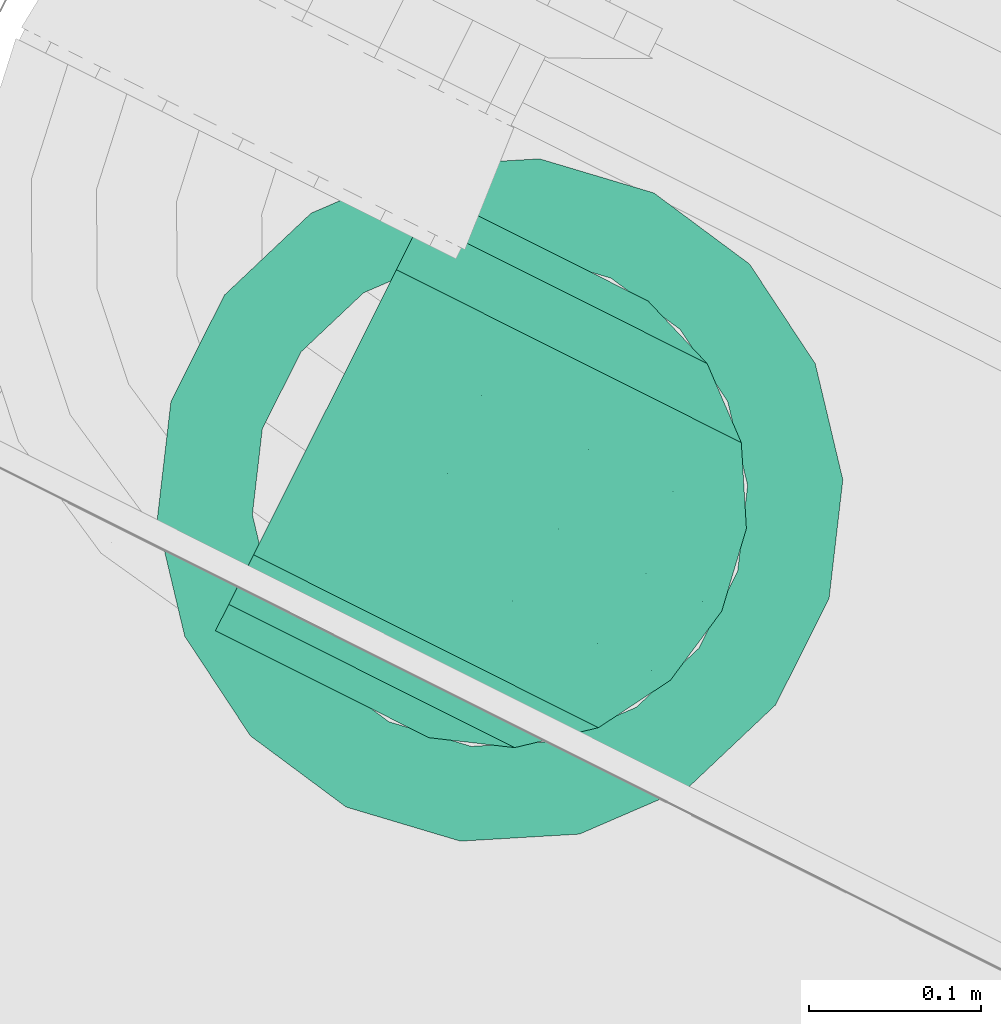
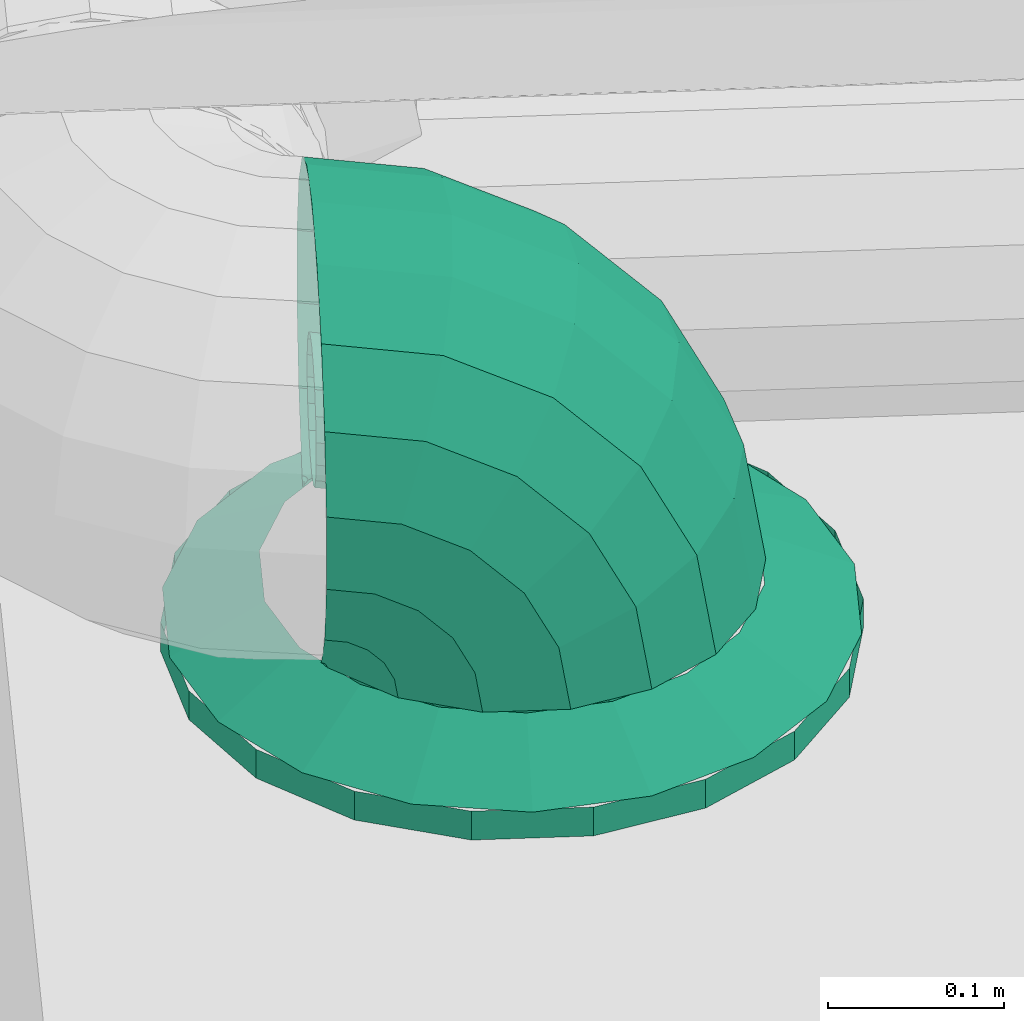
# One storey, part 88 of 206: 1 flow fitting, 1 flow segment.
"""IFC2X3 building model written with IfcOpenShell, lengths in metres."""

from ifc_helpers import new_model, si_unit, derived_unit, direction, frame, origin, place, context, subcontext, project, spatial, face_set, surface_model, source, transform, mapped, material, type_object, type_shapes, element, save


model = new_model("IFC2X3")

# Units and contexts
model_context = context("Model", 3, precision=5.2338327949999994e-05, world=origin(), true_north=direction((0.0, 1.0)))
body_context = subcontext(model_context, "Body", "Model", "MODEL_VIEW")
ifc_project = project(units=[si_unit("LENGTHUNIT", "METRE"), si_unit("AREAUNIT", "SQUARE_METRE"), si_unit("VOLUMEUNIT", "CUBIC_METRE"), si_unit("MASSUNIT", "GRAM", prefix="KILO"), si_unit("PLANEANGLEUNIT", "RADIAN"), derived_unit("THERMALTRANSMITTANCEUNIT", [(si_unit("MASSUNIT", "GRAM", prefix="KILO"), 1), (si_unit("THERMODYNAMICTEMPERATUREUNIT", "KELVIN"), -1), (si_unit("TIMEUNIT", "SECOND"), -3)])], contexts=[model_context])

# Site, building, storey
site_placement = place(None, frame((0.0, 0.0, 0.0), z_axis=(0.0, 0.0, 1.0), x_axis=(0.8939966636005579, -0.4480736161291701, 0.0)))
site = spatial("IfcSite", under=ifc_project, at=site_placement, Name="Default", CompositionType="ELEMENT")
building_placement = place(site_placement, origin())
building = spatial("IfcBuilding", under=site, at=building_placement, CompositionType="ELEMENT")
storey_placement = place(building_placement, origin())
storey = spatial("IfcBuildingStorey", under=building, at=storey_placement, Name="Erdgeschoss", CompositionType="ELEMENT", Elevation=0.0)

# Flow fitting
ifc_material = material(Name="IfcSurfaceStyle #1741")
distribution_element_type_1 = type_object("IfcDistributionElementType", Name="Flansch 329199:Flansch 329199", material=ifc_material)
shared_shape_1 = source(origin(), body_context, "Body", "SurfaceModel", [
    surface_model("IfcFaceBasedSurfaceModel", [(30.08812798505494, 8.473570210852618, 2.15), (30.09415872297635, 8.439368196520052, 2.15), (30.09415872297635, 8.439368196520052, 2.170000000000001), (30.08812798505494, 8.473570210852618, 2.1699999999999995), (30.11152354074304, 8.409291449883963, 2.15), (30.11152354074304, 8.409291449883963, 2.170000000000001), (30.13812798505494, 8.386967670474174, 2.15), (30.13812798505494, 8.386967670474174, 2.170000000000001), (30.170763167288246, 8.375089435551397, 2.15), (30.170763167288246, 8.375089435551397, 2.170000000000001), (30.205492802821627, 8.375089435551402, 2.15), (30.205492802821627, 8.375089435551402, 2.170000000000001), (30.238127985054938, 8.386967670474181, 2.15), (30.238127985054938, 8.386967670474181, 2.170000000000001), (30.264732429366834, 8.409291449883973, 2.15), (30.264732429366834, 8.409291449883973, 2.170000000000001), (30.282097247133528, 8.43936819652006, 2.15), (30.282097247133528, 8.43936819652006, 2.170000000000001), (30.288127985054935, 8.473570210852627, 2.15), (30.288127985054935, 8.473570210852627, 2.170000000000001), (30.282097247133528, 8.507772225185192, 2.15), (30.282097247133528, 8.507772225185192, 2.170000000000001), (30.264732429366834, 8.537848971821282, 2.15), (30.264732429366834, 8.537848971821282, 2.170000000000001), (30.238127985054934, 8.56017275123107, 2.15), (30.238127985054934, 8.56017275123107, 2.170000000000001), (30.205492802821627, 8.572050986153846, 2.15), (30.205492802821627, 8.572050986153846, 2.170000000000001), (30.170763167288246, 8.572050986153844, 2.15), (30.170763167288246, 8.572050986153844, 2.170000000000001), (30.138127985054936, 8.560172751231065, 2.15), (30.138127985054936, 8.560172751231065, 2.170000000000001), (30.11152354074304, 8.537848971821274, 2.15), (30.11152354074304, 8.537848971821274, 2.170000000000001), (30.09415872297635, 8.507772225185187, 2.15), (30.09415872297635, 8.507772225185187, 2.170000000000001), (30.188127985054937, 8.473570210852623, 2.170000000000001), (30.188127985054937, 8.526070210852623, 2.170000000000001), (30.170171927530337, 8.522904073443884, 2.170000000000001), (30.17292518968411, 8.515339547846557, 2.2000000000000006), (30.188127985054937, 8.518020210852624, 2.2), (30.154381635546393, 8.513787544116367, 2.170000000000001), (30.15955607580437, 8.50762088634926, 2.2), (30.142661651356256, 8.49982021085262, 2.170000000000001), (30.149633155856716, 8.495795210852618, 2.2000000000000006), (30.136425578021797, 8.482686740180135, 2.1700000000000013), (30.144353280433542, 8.481288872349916, 2.2000000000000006), (30.136425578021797, 8.464453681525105, 2.170000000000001), (30.144353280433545, 8.465851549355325, 2.2000000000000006), (30.142661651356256, 8.447320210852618, 2.170000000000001), (30.149633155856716, 8.45134521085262, 2.2000000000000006), (30.154381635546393, 8.433352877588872, 2.1700000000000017), (30.15955607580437, 8.43951953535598, 2.200000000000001), (30.170171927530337, 8.424236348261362, 2.170000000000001), (30.17292518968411, 8.431800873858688, 2.2000000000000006), (30.188127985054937, 8.42107021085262, 2.1700000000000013), (30.188127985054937, 8.429120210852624, 2.2000000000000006), (30.206084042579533, 8.424236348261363, 2.170000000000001), (30.203330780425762, 8.43180087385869, 2.2000000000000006), (30.22187433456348, 8.433352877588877, 2.170000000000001), (30.216699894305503, 8.439519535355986, 2.2000000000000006), (30.23359431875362, 8.447320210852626, 2.170000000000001), (30.226622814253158, 8.451345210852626, 2.2000000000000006), (30.239830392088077, 8.46445368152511, 2.170000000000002), (30.23190268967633, 8.465851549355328, 2.2000000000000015), (30.239830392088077, 8.482686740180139, 2.170000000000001), (30.23190268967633, 8.481288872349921, 2.2000000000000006), (30.23359431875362, 8.499820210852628, 2.170000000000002), (30.226622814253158, 8.495795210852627, 2.200000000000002), (30.22187433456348, 8.513787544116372, 2.170000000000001), (30.216699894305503, 8.507620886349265, 2.2000000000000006), (30.20608404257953, 8.522904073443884, 2.1700000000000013), (30.203330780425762, 8.515339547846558, 2.2000000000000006), (29.988127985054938, 8.473570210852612, 2.15), (30.000189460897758, 8.405166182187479, 2.15), (30.000189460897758, 8.405166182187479, 2.170000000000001), (29.988127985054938, 8.473570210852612, 2.170000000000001), (30.03491909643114, 8.345012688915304, 2.15), (30.03491909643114, 8.345012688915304, 2.170000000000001), (30.08812798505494, 8.300365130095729, 2.15), (30.08812798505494, 8.300365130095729, 2.170000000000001), (30.153398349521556, 8.276608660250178, 2.15), (30.153398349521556, 8.276608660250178, 2.170000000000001), (30.222857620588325, 8.276608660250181, 2.15), (30.222857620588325, 8.276608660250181, 2.170000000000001), (30.288127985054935, 8.300365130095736, 2.15), (30.288127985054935, 8.300365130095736, 2.170000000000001), (30.34133687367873, 8.345012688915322, 2.15), (30.34133687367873, 8.345012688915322, 2.170000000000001), (30.37606650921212, 8.4051661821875, 2.15), (30.37606650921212, 8.4051661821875, 2.170000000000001), (30.388127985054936, 8.473570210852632, 2.15), (30.388127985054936, 8.473570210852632, 2.170000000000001), (30.37606650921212, 8.541974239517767, 2.15), (30.37606650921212, 8.541974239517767, 2.170000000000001), (30.341336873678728, 8.60212773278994, 2.15), (30.341336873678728, 8.60212773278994, 2.170000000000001), (30.288127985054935, 8.646775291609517, 2.15), (30.288127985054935, 8.646775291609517, 2.170000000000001), (30.222857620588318, 8.670531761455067, 2.15), (30.222857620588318, 8.670531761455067, 2.170000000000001), (30.15339834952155, 8.670531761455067, 2.15), (30.15339834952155, 8.670531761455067, 2.170000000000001), (30.08812798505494, 8.646775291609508, 2.15), (30.08812798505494, 8.646775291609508, 2.170000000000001), (30.03491909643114, 8.602127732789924, 2.15), (30.03491909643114, 8.602127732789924, 2.170000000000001), (30.000189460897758, 8.541974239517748, 2.15), (30.000189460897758, 8.541974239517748, 2.170000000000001), (30.188127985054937, 8.673570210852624, 2.1700000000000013), (30.1197239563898, 8.661508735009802, 2.1700000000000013), (30.138723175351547, 8.609308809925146, 2.2000000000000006), (30.188127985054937, 8.618020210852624, 2.1999999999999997), (30.05957046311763, 8.626779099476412, 2.170000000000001), (30.09527731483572, 8.584225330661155, 2.2000000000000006), (30.01492290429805, 8.573570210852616, 2.1700000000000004), (30.06303061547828, 8.545795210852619, 2.1999999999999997), (29.9911664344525, 8.508299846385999, 2.169999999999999), (30.045872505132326, 8.498653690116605, 2.1999999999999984), (29.9911664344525, 8.438840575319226, 2.170000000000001), (30.045872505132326, 8.448486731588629, 2.2000000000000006), (30.01492290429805, 8.373570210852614, 2.1700000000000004), (30.063030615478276, 8.401345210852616, 2.1999999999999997), (30.05957046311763, 8.32036132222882, 2.1700000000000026), (30.09527731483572, 8.36291509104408, 2.200000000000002), (30.11972395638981, 8.285631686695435, 2.170000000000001), (30.138723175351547, 8.337831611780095, 2.2000000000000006), (30.188127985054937, 8.27357021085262, 2.1700000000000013), (30.188127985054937, 8.32912021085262, 2.2000000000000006), (30.25653201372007, 8.285631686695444, 2.1700000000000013), (30.23753279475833, 8.337831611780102, 2.2000000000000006), (30.316685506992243, 8.320361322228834, 2.1700000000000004), (30.280978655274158, 8.36291509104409, 2.1999999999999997), (30.36133306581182, 8.373570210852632, 2.1700000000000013), (30.313225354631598, 8.401345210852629, 2.2000000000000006), (30.38508953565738, 8.438840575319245, 2.170000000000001), (30.330383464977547, 8.448486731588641, 2.2000000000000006), (30.38508953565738, 8.50829984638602, 2.1699999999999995), (30.330383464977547, 8.498653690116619, 2.1999999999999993), (30.36133306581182, 8.573570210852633, 2.17), (30.313225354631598, 8.54579521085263, 2.1999999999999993), (30.316685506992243, 8.626779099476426, 2.1700000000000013), (30.280978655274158, 8.584225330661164, 2.2000000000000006), (30.25653201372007, 8.66150873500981, 2.1700000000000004), (30.23753279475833, 8.609308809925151, 2.1999999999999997)], [face_set([[[0, 1, 2, 3]], [[1, 4, 5, 2]], [[4, 6, 7, 5]], [[6, 8, 9, 7]], [[8, 10, 11, 9]], [[10, 12, 13, 11]], [[12, 14, 15, 13]], [[14, 16, 17, 15]], [[16, 18, 19, 17]], [[18, 20, 21, 19]], [[20, 22, 23, 21]], [[22, 24, 25, 23]], [[24, 26, 27, 25]], [[26, 28, 29, 27]], [[28, 30, 31, 29]], [[30, 32, 33, 31]], [[32, 34, 35, 33]], [[34, 0, 3, 35]], [[36, 35, 3]], [[36, 33, 35]], [[36, 31, 33]], [[36, 29, 31]], [[36, 27, 29]], [[36, 25, 27]], [[36, 23, 25]], [[36, 21, 23]], [[36, 19, 21]], [[36, 17, 19]], [[36, 15, 17]], [[36, 13, 15]], [[36, 11, 13]], [[36, 9, 11]], [[36, 7, 9]], [[36, 5, 7]], [[36, 2, 5]], [[36, 3, 2]], [[37, 38, 39, 40]], [[38, 41, 42, 39]], [[41, 43, 44, 42]], [[43, 45, 46, 44]], [[45, 47, 48, 46]], [[47, 49, 50, 48]], [[49, 51, 52, 50]], [[51, 53, 54, 52]], [[53, 55, 56, 54]], [[55, 57, 58, 56]], [[57, 59, 60, 58]], [[59, 61, 62, 60]], [[61, 63, 64, 62]], [[63, 65, 66, 64]], [[65, 67, 68, 66]], [[67, 69, 70, 68]], [[69, 71, 72, 70]], [[71, 37, 40, 72]], [[73, 74, 75, 76]], [[74, 77, 78, 75]], [[77, 79, 80, 78]], [[79, 81, 82, 80]], [[81, 83, 84, 82]], [[83, 85, 86, 84]], [[85, 87, 88, 86]], [[87, 89, 90, 88]], [[89, 91, 92, 90]], [[91, 93, 94, 92]], [[93, 95, 96, 94]], [[95, 97, 98, 96]], [[97, 99, 100, 98]], [[99, 101, 102, 100]], [[101, 103, 104, 102]], [[103, 105, 106, 104]], [[105, 107, 108, 106]], [[107, 73, 76, 108]], [[109, 110, 111, 112]], [[110, 113, 114, 111]], [[113, 115, 116, 114]], [[115, 117, 118, 116]], [[117, 119, 120, 118]], [[119, 121, 122, 120]], [[121, 123, 124, 122]], [[123, 125, 126, 124]], [[125, 127, 128, 126]], [[127, 129, 130, 128]], [[129, 131, 132, 130]], [[131, 133, 134, 132]], [[133, 135, 136, 134]], [[135, 137, 138, 136]], [[137, 139, 140, 138]], [[139, 141, 142, 140]], [[141, 143, 144, 142]], [[143, 109, 112, 144]]])]),
])
type_shapes(distribution_element_type_1, [shared_shape_1])
flow_fitting_placement = place(storey_placement, origin())
element("IfcFlowFitting", 1, at=flow_fitting_placement, inside=storey, type_object=distribution_element_type_1, material=ifc_material, Name="Flansch", ObjectType="Flansch", context=body_context, shape_type="MappedRepresentation", body=[
    mapped(shared_shape_1, transform((0.0, 0.0, 0.0), scale=1.0)),
])

# Flow segment
distribution_element_type_2 = type_object("IfcDistributionElementType", Name="Rohrbogen 329222:Rohrbogen 329222", material=ifc_material)
shared_shape_2 = source(origin(), body_context, "Body", "SurfaceModel", [
    surface_model("IfcFaceBasedSurfaceModel", [(30.123091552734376, 8.47356999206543, 2.350694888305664), (30.074127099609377, 8.47356999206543, 2.3584499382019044), (30.122263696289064, 8.458367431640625, 2.34814547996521), (30.074127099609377, 8.458367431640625, 2.3557692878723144), (30.167263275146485, 8.47356999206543, 2.3281887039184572), (30.165686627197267, 8.458367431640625, 2.326020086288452), (30.202316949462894, 8.47356999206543, 2.2931345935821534), (30.200147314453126, 8.458367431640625, 2.2915589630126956), (30.224822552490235, 8.47356999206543, 2.248963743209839), (30.222273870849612, 8.458367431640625, 2.2481353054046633), (30.23257789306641, 8.47356999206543, 2.200000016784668), (30.229896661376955, 8.458367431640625, 2.200000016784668), (30.074127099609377, 8.44499848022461, 2.3480507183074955), (30.119877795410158, 8.44499848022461, 2.340804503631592), (30.16114969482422, 8.44499848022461, 2.3197755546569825), (30.193903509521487, 8.44499848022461, 2.2870220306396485), (30.214932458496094, 8.44499848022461, 2.245750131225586), (30.222178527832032, 8.44499848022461, 2.200000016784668), (30.074127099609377, 8.435075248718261, 2.33622498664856), (30.1162245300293, 8.435075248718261, 2.3295576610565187), (30.15419895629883, 8.435075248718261, 2.3102084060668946), (30.18433665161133, 8.435075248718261, 2.2800710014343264), (30.203686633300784, 8.435075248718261, 2.242095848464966), (30.210353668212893, 8.435075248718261, 2.200000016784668), (30.111741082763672, 8.429795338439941, 2.3157612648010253), (30.074127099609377, 8.429795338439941, 2.321718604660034), (30.14567156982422, 8.429795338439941, 2.298472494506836), (30.17260015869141, 8.429795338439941, 2.271544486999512), (30.18988980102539, 8.429795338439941, 2.23761312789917), (30.1958475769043, 8.429795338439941, 2.200000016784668), (30.074127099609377, 8.429795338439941, 2.30628132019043), (30.106971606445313, 8.429795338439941, 2.301079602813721), (30.136597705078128, 8.429795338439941, 2.2859834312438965), (30.160112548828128, 8.429795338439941, 2.262470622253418), (30.17520697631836, 8.429795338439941, 2.232842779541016), (30.180408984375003, 8.429795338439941, 2.200000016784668), (30.074127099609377, 8.435075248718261, 2.2917749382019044), (30.10248815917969, 8.435075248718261, 2.287283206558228), (30.12807264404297, 8.435075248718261, 2.274247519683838), (30.148376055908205, 8.435075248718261, 2.2539439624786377), (30.16141014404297, 8.435075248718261, 2.2283600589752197), (30.16590289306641, 8.435075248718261, 2.200000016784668), (30.074127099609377, 8.44499848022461, 2.2799493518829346), (30.098832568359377, 8.44499848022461, 2.2760363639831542), (30.12112190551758, 8.44499848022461, 2.26468037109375), (30.13880919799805, 8.44499848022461, 2.2469930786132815), (30.150164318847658, 8.44499848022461, 2.224705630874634), (30.154078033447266, 8.44499848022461, 2.200000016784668), (30.096448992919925, 8.458367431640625, 2.268695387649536), (30.074127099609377, 8.458367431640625, 2.2722306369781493), (30.116584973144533, 8.458367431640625, 2.2584358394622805), (30.132563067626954, 8.458367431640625, 2.2424561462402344), (30.142822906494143, 8.458367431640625, 2.222320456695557), (30.146357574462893, 8.458367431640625, 2.200000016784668), (30.074127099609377, 8.47356999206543, 2.26954998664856), (30.095621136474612, 8.47356999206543, 2.266145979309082), (30.115008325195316, 8.47356999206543, 2.2562670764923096), (30.130395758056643, 8.47356999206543, 2.2408805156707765), (30.140274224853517, 8.47356999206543, 2.2214921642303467), (30.143678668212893, 8.47356999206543, 2.200000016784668), (30.074127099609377, 8.488773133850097, 2.2722306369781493), (30.096448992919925, 8.488773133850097, 2.268695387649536), (30.116584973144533, 8.488773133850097, 2.2584358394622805), (30.132563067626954, 8.488773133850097, 2.2424561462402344), (30.142822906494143, 8.488773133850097, 2.222320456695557), (30.146357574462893, 8.488773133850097, 2.200000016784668), (30.074127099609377, 8.502142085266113, 2.2799493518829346), (30.098832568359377, 8.502142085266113, 2.2760363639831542), (30.12112190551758, 8.502142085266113, 2.26468037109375), (30.13880919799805, 8.502142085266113, 2.2469930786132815), (30.150164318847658, 8.502142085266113, 2.224705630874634), (30.154078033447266, 8.502142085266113, 2.200000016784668), (30.10248815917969, 8.512065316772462, 2.287283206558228), (30.074127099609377, 8.512065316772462, 2.2917749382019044), (30.12807264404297, 8.512065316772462, 2.274247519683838), (30.148376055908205, 8.512065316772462, 2.2539439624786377), (30.16141014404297, 8.512065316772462, 2.2283600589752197), (30.16590289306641, 8.512065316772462, 2.200000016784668), (30.074127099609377, 8.517344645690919, 2.30628132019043), (30.106971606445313, 8.517344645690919, 2.301079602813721), (30.136597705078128, 8.517344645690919, 2.2859834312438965), (30.160112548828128, 8.517344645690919, 2.262470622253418), (30.17520697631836, 8.517344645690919, 2.232842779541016), (30.180408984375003, 8.517344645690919, 2.200000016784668), (30.111741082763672, 8.517344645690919, 2.3157612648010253), (30.074127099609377, 8.517344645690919, 2.321718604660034), (30.14567156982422, 8.517344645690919, 2.298472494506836), (30.17260015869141, 8.517344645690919, 2.271544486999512), (30.18988980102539, 8.517344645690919, 2.23761312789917), (30.1958475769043, 8.517344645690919, 2.200000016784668), (30.074127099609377, 8.512065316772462, 2.33622498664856), (30.1162245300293, 8.512065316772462, 2.3295576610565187), (30.15419895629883, 8.512065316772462, 2.3102084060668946), (30.18433665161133, 8.512065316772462, 2.2800710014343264), (30.203686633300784, 8.512065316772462, 2.242095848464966), (30.210353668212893, 8.512065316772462, 2.200000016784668), (30.074127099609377, 8.502142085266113, 2.3480507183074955), (30.119877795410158, 8.502142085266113, 2.340804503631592), (30.16114969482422, 8.502142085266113, 2.3197755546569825), (30.193903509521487, 8.502142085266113, 2.2870220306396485), (30.214932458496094, 8.502142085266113, 2.245750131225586), (30.222178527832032, 8.502142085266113, 2.200000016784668), (30.122263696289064, 8.488773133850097, 2.34814547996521), (30.074127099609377, 8.488773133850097, 2.3557692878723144), (30.165686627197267, 8.488773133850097, 2.326020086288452), (30.200147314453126, 8.488773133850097, 2.2915589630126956), (30.222273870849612, 8.488773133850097, 2.2481353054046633), (30.229896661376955, 8.488773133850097, 2.200000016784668), (30.153994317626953, 8.47356999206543, 2.445800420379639), (30.074127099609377, 8.47356999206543, 2.458449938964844), (30.151301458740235, 8.424165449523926, 2.437515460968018), (30.074127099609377, 8.424165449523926, 2.449738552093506), (30.226041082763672, 8.47356999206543, 2.409090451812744), (30.220920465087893, 8.424165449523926, 2.4020427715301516), (30.28321898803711, 8.47356999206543, 2.35191312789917), (30.27617058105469, 8.424165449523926, 2.3467926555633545), (30.319928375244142, 8.47356999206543, 2.2798654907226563), (30.311642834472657, 8.424165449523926, 2.2771735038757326), (30.332578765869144, 8.47356999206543, 2.200000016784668), (30.323867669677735, 8.424165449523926, 2.200000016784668), (30.074127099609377, 8.380719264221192, 2.4246550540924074), (30.14355076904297, 8.380719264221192, 2.4136596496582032), (30.20617717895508, 8.380719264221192, 2.381749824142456), (30.25587879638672, 8.380719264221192, 2.3320489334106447), (30.2877884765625, 8.380719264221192, 2.2694222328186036), (30.298783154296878, 8.380719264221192, 2.200000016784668), (30.13167474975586, 8.34847297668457, 2.377110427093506), (30.074127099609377, 8.34847297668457, 2.3862249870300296), (30.183587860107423, 8.34847297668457, 2.350659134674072), (30.22478767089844, 8.34847297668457, 2.3094603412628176), (30.251239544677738, 8.34847297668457, 2.257546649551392), (30.26035294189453, 8.34847297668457, 2.200000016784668), (30.074127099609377, 8.331314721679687, 2.339083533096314), (30.117108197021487, 8.331314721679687, 2.3322762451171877), (30.15588024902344, 8.331314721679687, 2.3125209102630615), (30.186648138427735, 8.331314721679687, 2.281751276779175), (30.206405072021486, 8.331314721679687, 2.242979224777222), (30.213211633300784, 8.331314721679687, 2.200000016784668), (30.074127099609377, 8.331314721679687, 2.2889165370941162), (30.1016044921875, 8.331314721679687, 2.284564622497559), (30.12639135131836, 8.331314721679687, 2.271935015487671), (30.146062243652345, 8.331314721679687, 2.252263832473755), (30.158691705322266, 8.331314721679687, 2.227476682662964), (30.163044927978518, 8.331314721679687, 2.200000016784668), (30.074127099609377, 8.34847297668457, 2.2417749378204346), (30.087037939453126, 8.34847297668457, 2.23973044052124), (30.098683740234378, 8.34847297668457, 2.2337966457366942), (30.107925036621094, 8.34847297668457, 2.2245547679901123), (30.113857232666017, 8.34847297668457, 2.2129091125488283), (30.115903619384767, 8.34847297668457, 2.200000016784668), (30.074127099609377, 8.380719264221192, 2.2033448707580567), (30.075161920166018, 8.380719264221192, 2.203181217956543), (30.07609442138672, 8.380719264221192, 2.2027061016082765), (30.076833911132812, 8.380719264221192, 2.2019660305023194), (30.07730830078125, 8.380719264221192, 2.201033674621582), (30.077473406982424, 8.380719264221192, 2.200000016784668), (30.074127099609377, 8.386513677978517, 2.199999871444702), (30.07502937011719, 8.386266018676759, 2.199999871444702), (30.074127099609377, 8.560626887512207, 2.199999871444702), (30.07502937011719, 8.560874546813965, 2.199999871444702), (30.075161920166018, 8.566420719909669, 2.203181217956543), (30.074127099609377, 8.566420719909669, 2.2033448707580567), (30.07609442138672, 8.566420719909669, 2.2027061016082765), (30.076833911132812, 8.566420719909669, 2.2019660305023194), (30.07730830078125, 8.566420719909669, 2.201033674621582), (30.077473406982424, 8.566420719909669, 2.200000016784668), (30.087037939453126, 8.598667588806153, 2.23973044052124), (30.074127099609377, 8.598667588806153, 2.2417749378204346), (30.098683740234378, 8.598667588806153, 2.2337966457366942), (30.107925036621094, 8.598667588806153, 2.2245547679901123), (30.113857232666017, 8.598667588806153, 2.2129091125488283), (30.115903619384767, 8.598667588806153, 2.200000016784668), (30.1016044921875, 8.615825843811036, 2.284564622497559), (30.074127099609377, 8.615825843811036, 2.2889165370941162), (30.12639135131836, 8.615825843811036, 2.271935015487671), (30.146062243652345, 8.615825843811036, 2.252263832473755), (30.158691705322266, 8.615825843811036, 2.227476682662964), (30.163044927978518, 8.615825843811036, 2.200000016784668), (30.117108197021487, 8.615825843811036, 2.3322762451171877), (30.074127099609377, 8.615825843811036, 2.339083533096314), (30.15588024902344, 8.615825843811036, 2.3125209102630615), (30.186648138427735, 8.615825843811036, 2.281751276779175), (30.206405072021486, 8.615825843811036, 2.242979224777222), (30.213211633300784, 8.615825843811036, 2.200000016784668), (30.13167474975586, 8.598667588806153, 2.377110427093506), (30.074127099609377, 8.598667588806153, 2.3862249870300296), (30.183587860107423, 8.598667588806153, 2.350659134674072), (30.22478767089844, 8.598667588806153, 2.3094603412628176), (30.251239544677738, 8.598667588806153, 2.257546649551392), (30.26035294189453, 8.598667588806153, 2.200000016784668), (30.14355076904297, 8.566420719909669, 2.4136596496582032), (30.074127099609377, 8.566420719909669, 2.4246550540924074), (30.20617717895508, 8.566420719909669, 2.381749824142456), (30.25587879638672, 8.566420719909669, 2.3320489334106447), (30.2877884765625, 8.566420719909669, 2.2694222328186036), (30.298783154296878, 8.566420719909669, 2.200000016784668), (30.151301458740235, 8.522975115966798, 2.437515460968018), (30.074127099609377, 8.522975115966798, 2.449738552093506), (30.220920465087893, 8.522975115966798, 2.4020427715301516), (30.27617058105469, 8.522975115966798, 2.3467926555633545), (30.311642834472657, 8.522975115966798, 2.2771735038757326), (30.323867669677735, 8.522975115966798, 2.200000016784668)], [face_set([[[0, 1, 2]], [[3, 2, 1]], [[4, 0, 5]], [[2, 5, 0]], [[6, 4, 5]], [[5, 7, 6]], [[8, 6, 7]], [[7, 9, 8]], [[10, 8, 9]], [[9, 11, 10]], [[2, 3, 12]], [[12, 13, 2]], [[5, 2, 14]], [[13, 14, 2]], [[7, 5, 15]], [[14, 15, 5]], [[9, 7, 16]], [[15, 16, 7]], [[11, 9, 17]], [[16, 17, 9]], [[13, 12, 18]], [[18, 19, 13]], [[14, 13, 19]], [[19, 20, 14]], [[15, 14, 21]], [[20, 21, 14]], [[16, 15, 21]], [[21, 22, 16]], [[17, 16, 22]], [[22, 23, 17]], [[19, 18, 24]], [[25, 24, 18]], [[20, 19, 26]], [[24, 26, 19]], [[21, 20, 27]], [[26, 27, 20]], [[22, 21, 28]], [[27, 28, 21]], [[23, 22, 29]], [[28, 29, 22]], [[24, 25, 30]], [[30, 31, 24]], [[26, 24, 31]], [[31, 32, 26]], [[27, 26, 33]], [[32, 33, 26]], [[28, 27, 34]], [[33, 34, 27]], [[29, 28, 34]], [[34, 35, 29]], [[31, 30, 36]], [[36, 37, 31]], [[32, 31, 38]], [[37, 38, 31]], [[33, 32, 39]], [[38, 39, 32]], [[34, 33, 40]], [[39, 40, 33]], [[35, 34, 40]], [[40, 41, 35]], [[37, 36, 42]], [[42, 43, 37]], [[38, 37, 43]], [[43, 44, 38]], [[39, 38, 44]], [[44, 45, 39]], [[40, 39, 46]], [[45, 46, 39]], [[41, 40, 46]], [[46, 47, 41]], [[43, 42, 48]], [[49, 48, 42]], [[44, 43, 50]], [[48, 50, 43]], [[45, 44, 51]], [[50, 51, 44]], [[46, 45, 52]], [[51, 52, 45]], [[47, 46, 52]], [[52, 53, 47]], [[48, 49, 54]], [[54, 55, 48]], [[50, 48, 55]], [[55, 56, 50]], [[51, 50, 56]], [[56, 57, 51]], [[52, 51, 58]], [[57, 58, 51]], [[53, 52, 58]], [[58, 59, 53]], [[55, 54, 60]], [[60, 61, 55]], [[56, 55, 62]], [[61, 62, 55]], [[57, 56, 63]], [[62, 63, 56]], [[58, 57, 63]], [[63, 64, 58]], [[59, 58, 64]], [[64, 65, 59]], [[61, 60, 66]], [[66, 67, 61]], [[62, 61, 67]], [[67, 68, 62]], [[63, 62, 69]], [[68, 69, 62]], [[64, 63, 69]], [[69, 70, 64]], [[65, 64, 71]], [[70, 71, 64]], [[67, 66, 72]], [[73, 72, 66]], [[68, 67, 74]], [[72, 74, 67]], [[69, 68, 75]], [[74, 75, 68]], [[70, 69, 75]], [[75, 76, 70]], [[71, 70, 77]], [[76, 77, 70]], [[72, 73, 78]], [[78, 79, 72]], [[74, 72, 79]], [[79, 80, 74]], [[75, 74, 80]], [[80, 81, 75]], [[76, 75, 81]], [[81, 82, 76]], [[77, 76, 82]], [[82, 83, 77]], [[79, 78, 84]], [[85, 84, 78]], [[80, 79, 86]], [[84, 86, 79]], [[81, 80, 86]], [[86, 87, 81]], [[82, 81, 87]], [[87, 88, 82]], [[83, 82, 89]], [[88, 89, 82]], [[84, 85, 90]], [[90, 91, 84]], [[86, 84, 91]], [[91, 92, 86]], [[87, 86, 92]], [[92, 93, 87]], [[88, 87, 93]], [[93, 94, 88]], [[89, 88, 95]], [[94, 95, 88]], [[91, 90, 96]], [[96, 97, 91]], [[92, 91, 98]], [[97, 98, 91]], [[93, 92, 99]], [[98, 99, 92]], [[94, 93, 99]], [[99, 100, 94]], [[95, 94, 101]], [[100, 101, 94]], [[97, 96, 102]], [[103, 102, 96]], [[98, 97, 102]], [[102, 104, 98]], [[99, 98, 104]], [[104, 105, 99]], [[100, 99, 105]], [[105, 106, 100]], [[101, 100, 107]], [[106, 107, 100]], [[102, 103, 1]], [[1, 0, 102]], [[104, 102, 4]], [[0, 4, 102]], [[105, 104, 6]], [[4, 6, 104]], [[106, 105, 8]], [[6, 8, 105]], [[107, 106, 10]], [[8, 10, 106]], [[108, 109, 110]], [[111, 110, 109]], [[112, 108, 113]], [[110, 113, 108]], [[114, 112, 115]], [[113, 115, 112]], [[116, 114, 117]], [[115, 117, 114]], [[118, 116, 119]], [[117, 119, 116]], [[110, 111, 120]], [[120, 121, 110]], [[113, 110, 121]], [[121, 122, 113]], [[115, 113, 122]], [[122, 123, 115]], [[117, 115, 123]], [[123, 124, 117]], [[119, 117, 124]], [[124, 125, 119]], [[121, 120, 126]], [[127, 126, 120]], [[122, 121, 128]], [[126, 128, 121]], [[123, 122, 129]], [[128, 129, 122]], [[124, 123, 130]], [[129, 130, 123]], [[125, 124, 130]], [[130, 131, 125]], [[126, 127, 132]], [[132, 133, 126]], [[128, 126, 133]], [[133, 134, 128]], [[129, 128, 135]], [[134, 135, 128]], [[130, 129, 136]], [[135, 136, 129]], [[131, 130, 136]], [[136, 137, 131]], [[133, 132, 138]], [[138, 139, 133]], [[134, 133, 139]], [[139, 140, 134]], [[135, 134, 141]], [[140, 141, 134]], [[136, 135, 142]], [[141, 142, 135]], [[137, 136, 142]], [[142, 143, 137]], [[139, 138, 144]], [[144, 145, 139]], [[140, 139, 146]], [[145, 146, 139]], [[141, 140, 147]], [[146, 147, 140]], [[142, 141, 148]], [[147, 148, 141]], [[143, 142, 148]], [[148, 149, 143]], [[145, 144, 150]], [[150, 151, 145]], [[146, 145, 151]], [[151, 152, 146]], [[147, 146, 153]], [[152, 153, 146]], [[148, 147, 154]], [[153, 154, 147]], [[149, 148, 154]], [[154, 155, 149]], [[156, 151, 157]], [[156, 157, 150]], [[151, 150, 157]], [[151, 156, 152]], [[153, 152, 156]], [[154, 153, 156]], [[155, 154, 156]], [[158, 159, 160]], [[161, 160, 159]], [[159, 158, 161]], [[160, 162, 158]], [[158, 162, 163]], [[164, 158, 163]], [[165, 158, 164]], [[160, 161, 166]], [[167, 166, 161]], [[162, 160, 168]], [[166, 168, 160]], [[163, 162, 168]], [[168, 169, 163]], [[164, 163, 169]], [[169, 170, 164]], [[165, 164, 171]], [[170, 171, 164]], [[166, 167, 172]], [[173, 172, 167]], [[168, 166, 172]], [[172, 174, 168]], [[169, 168, 174]], [[174, 175, 169]], [[170, 169, 175]], [[175, 176, 170]], [[171, 170, 177]], [[176, 177, 170]], [[172, 173, 178]], [[179, 178, 173]], [[174, 172, 178]], [[178, 180, 174]], [[175, 174, 180]], [[180, 181, 175]], [[176, 175, 181]], [[181, 182, 176]], [[177, 176, 183]], [[182, 183, 176]], [[178, 179, 184]], [[185, 184, 179]], [[180, 178, 186]], [[184, 186, 178]], [[181, 180, 186]], [[186, 187, 181]], [[182, 181, 187]], [[187, 188, 182]], [[183, 182, 189]], [[188, 189, 182]], [[184, 185, 190]], [[191, 190, 185]], [[186, 184, 190]], [[190, 192, 186]], [[187, 186, 192]], [[192, 193, 187]], [[188, 187, 193]], [[193, 194, 188]], [[189, 188, 194]], [[194, 195, 189]], [[190, 191, 196]], [[197, 196, 191]], [[192, 190, 198]], [[196, 198, 190]], [[193, 192, 199]], [[198, 199, 192]], [[194, 193, 200]], [[199, 200, 193]], [[195, 194, 201]], [[200, 201, 194]], [[196, 197, 109]], [[109, 108, 196]], [[198, 196, 108]], [[108, 112, 198]], [[199, 198, 112]], [[112, 114, 199]], [[200, 199, 114]], [[114, 116, 200]], [[201, 200, 116]], [[116, 118, 201]]])]),
])
type_shapes(distribution_element_type_2, [shared_shape_2])
flow_segment_placement = place(storey_placement, origin())
element("IfcFlowSegment", 2, at=flow_segment_placement, inside=storey, type_object=distribution_element_type_2, material=ifc_material, Name="Rohrbogen", ObjectType="Rohrbogen", context=body_context, shape_type="MappedRepresentation", body=[
    mapped(shared_shape_2, transform((0.0, 0.0, 0.0), scale=1.0)),
])

save(model, "model.ifc")
